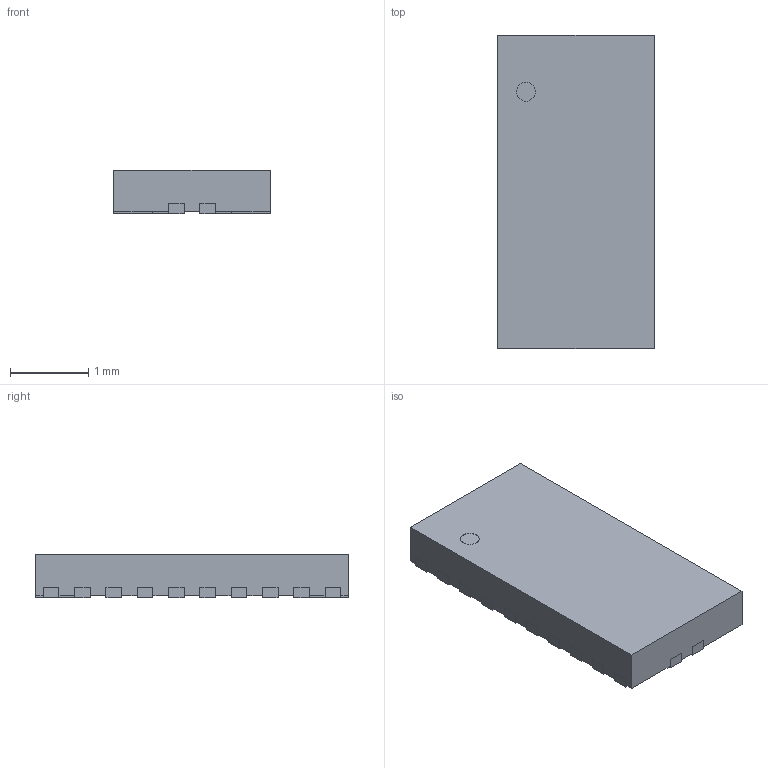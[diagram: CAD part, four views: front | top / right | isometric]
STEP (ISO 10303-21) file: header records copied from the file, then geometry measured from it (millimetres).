
FILE_DESCRIPTION(('Open CASCADE Model'),'2;1');
FILE_NAME('Open CASCADE Shape Model','2026-10-04T11:29:43',('Author'),( 'Open CASCADE'),'Open CASCADE STEP processor 7.9','Open CASCADE 7.9' ,'Unknown');
FILE_SCHEMA(('AUTOMOTIVE_DESIGN { 1 0 10303 214 1 1 1 1 }'));
Length unit declared in the file: millimetre
Products named in the file (4): TI_RJW0024A_Drawing_Envelope; package_body; terminals; illustrative_pin1_index
Assembly tree (3 placements, depth 2):
  TI_RJW0024A_Drawing_Envelope
    package_body
    terminals
    illustrative_pin1_index
Bounding box: 2 x 4 x 0.55 mm (x, y, z)
Volume: 4.3 mm3; surface area: 37.4 mm2
Topology: 26 solids, 26 shells, 251 faces, 594 edges, 396 vertices
Faces by surface type: plane 249, cylinder 2
Full cylindrical faces by diameter (mm): 0.24 x2
Entity records: 14852 total; most frequent: CARTESIAN_POINT 2577, DIRECTION 2152, LINE 1630, VECTOR 1630, ORIENTED_EDGE 1188, PCURVE 1188, DEFINITIONAL_REPRESENTATION 1188, EDGE_CURVE 594
